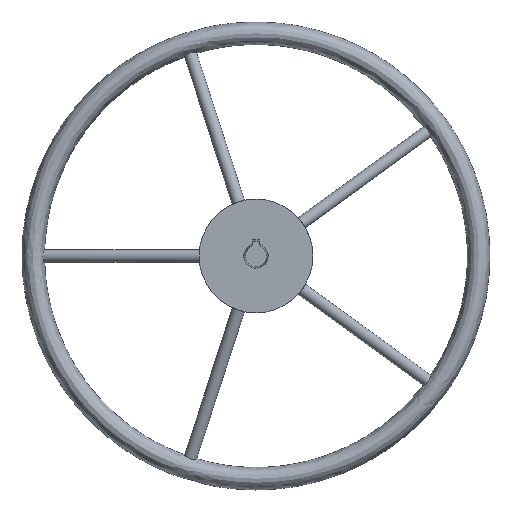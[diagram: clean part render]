
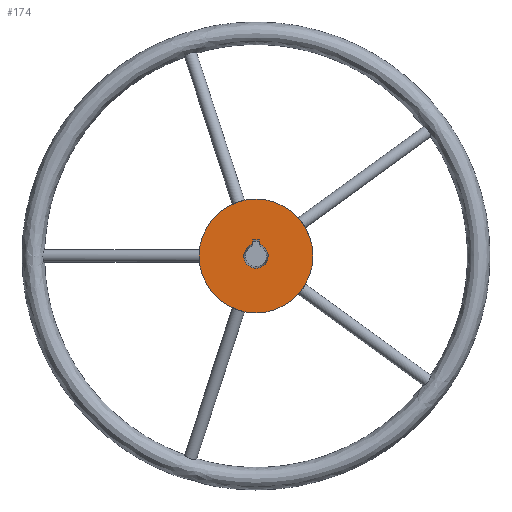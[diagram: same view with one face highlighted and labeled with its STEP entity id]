
A CAD part, front view. The second image highlights one B-rep face of the part: STEP entity #174.
In plain terms, the highlighted planar face has unit normal (0, -1, 0).
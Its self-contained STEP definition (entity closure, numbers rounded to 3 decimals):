
#97=LINE('',#1083,#114);
#102=LINE('',#1093,#119);
#104=LINE('',#1101,#121);
#114=VECTOR('',#735,1.);
#119=VECTOR('',#742,1.);
#121=VECTOR('',#746,1.);
#131=PLANE('',#626);
#139=FACE_BOUND('',#224,.T.);
#140=FACE_BOUND('',#225,.T.);
#174=ADVANCED_FACE('',(#139,#140),#131,.T.);
#224=EDGE_LOOP('',(#347,#348));
#225=EDGE_LOOP('',(#349,#350,#351,#352));
#347=ORIENTED_EDGE('',*,*,#533,.F.);
#348=ORIENTED_EDGE('',*,*,#534,.F.);
#349=ORIENTED_EDGE('',*,*,#532,.T.);
#350=ORIENTED_EDGE('',*,*,#529,.T.);
#351=ORIENTED_EDGE('',*,*,#524,.T.);
#352=ORIENTED_EDGE('',*,*,#535,.T.);
#450=VERTEX_POINT('',#1081);
#452=VERTEX_POINT('',#1084);
#455=VERTEX_POINT('',#1091);
#457=VERTEX_POINT('',#1099);
#458=VERTEX_POINT('',#1104);
#459=VERTEX_POINT('',#1105);
#524=EDGE_CURVE('',#452,#450,#97,.T.);
#529=EDGE_CURVE('',#455,#452,#102,.T.);
#532=EDGE_CURVE('',#457,#455,#104,.T.);
#533=EDGE_CURVE('',#458,#459,#569,.T.);
#534=EDGE_CURVE('',#459,#458,#570,.T.);
#535=EDGE_CURVE('',#450,#457,#571,.T.);
#569=CIRCLE('',#623,45.);
#570=CIRCLE('',#624,45.);
#571=CIRCLE('',#625,9.605);
#623=AXIS2_PLACEMENT_3D('',#1103,#749,#750);
#624=AXIS2_PLACEMENT_3D('',#1106,#751,#752);
#625=AXIS2_PLACEMENT_3D('',#1107,#753,#754);
#626=AXIS2_PLACEMENT_3D('',#1108,#755,#756);
#735=DIRECTION('',(0.,0.,-1.));
#742=DIRECTION('',(1.,0.,0.));
#746=DIRECTION('',(0.,0.,1.));
#749=DIRECTION('',(0.,1.,0.));
#750=DIRECTION('',(-1.,0.,0.));
#751=DIRECTION('',(0.,1.,0.));
#752=DIRECTION('',(-1.,0.,0.));
#753=DIRECTION('',(0.,1.,0.));
#754=DIRECTION('',(-1.,0.,0.));
#755=DIRECTION('',(0.,-1.,0.));
#756=DIRECTION('',(0.,0.,1.));
#1081=CARTESIAN_POINT('',(2.4,0.,9.3));
#1083=CARTESIAN_POINT('',(2.4,0.,3.029));
#1084=CARTESIAN_POINT('',(2.4,0.,12.705));
#1091=CARTESIAN_POINT('',(-2.4,0.,12.705));
#1093=CARTESIAN_POINT('',(-13.651,0.,12.705));
#1099=CARTESIAN_POINT('',(-2.4,0.,9.3));
#1101=CARTESIAN_POINT('',(-2.4,0.,3.029));
#1103=CARTESIAN_POINT('',(0.,0.,0.));
#1104=CARTESIAN_POINT('',(-45.,0.,0.));
#1105=CARTESIAN_POINT('',(45.,0.,0.));
#1106=CARTESIAN_POINT('',(0.,0.,0.));
#1107=CARTESIAN_POINT('',(0.,0.,0.));
#1108=CARTESIAN_POINT('',(-27.303,0.,0.));
